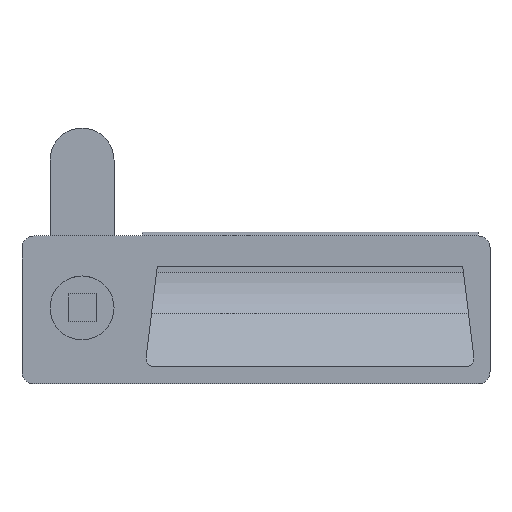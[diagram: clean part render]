
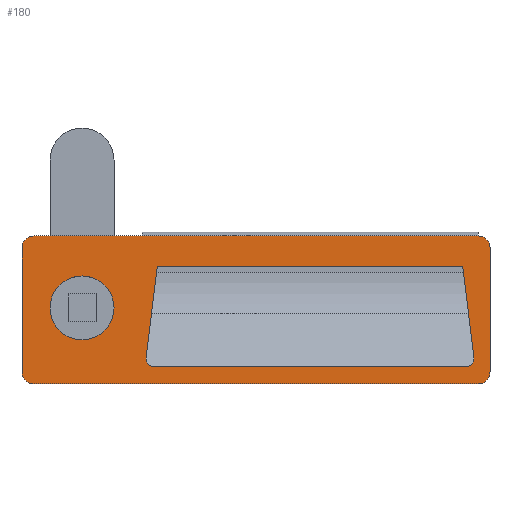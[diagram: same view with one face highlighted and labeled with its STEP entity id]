
A CAD part, top view. The second image highlights one B-rep face of the part: STEP entity #180.
In plain terms, the highlighted planar face has unit normal (0, 0, 1).
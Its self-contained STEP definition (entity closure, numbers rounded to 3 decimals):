
#180 = ADVANCED_FACE( '', ( #287, #288, #289 ), #290, .T. );
#287 = FACE_BOUND( '', #482, .T. );
#288 = FACE_OUTER_BOUND( '', #483, .T. );
#289 = FACE_BOUND( '', #484, .T. );
#290 = PLANE( '', #485 );
#482 = EDGE_LOOP( '', ( #744 ) );
#483 = EDGE_LOOP( '', ( #745, #746, #747, #748, #749, #750, #751, #752 ) );
#484 = EDGE_LOOP( '', ( #753, #754, #755, #756, #757, #758 ) );
#485 = AXIS2_PLACEMENT_3D( '', #759, #760, #761 );
#744 = ORIENTED_EDGE( '', *, *, #1409, .F. );
#745 = ORIENTED_EDGE( '', *, *, #1418, .T. );
#746 = ORIENTED_EDGE( '', *, *, #1419, .T. );
#747 = ORIENTED_EDGE( '', *, *, #1420, .T. );
#748 = ORIENTED_EDGE( '', *, *, #1421, .T. );
#749 = ORIENTED_EDGE( '', *, *, #1422, .T. );
#750 = ORIENTED_EDGE( '', *, *, #1423, .T. );
#751 = ORIENTED_EDGE( '', *, *, #1424, .T. );
#752 = ORIENTED_EDGE( '', *, *, #1425, .T. );
#753 = ORIENTED_EDGE( '', *, *, #1426, .F. );
#754 = ORIENTED_EDGE( '', *, *, #1427, .F. );
#755 = ORIENTED_EDGE( '', *, *, #1428, .F. );
#756 = ORIENTED_EDGE( '', *, *, #1429, .F. );
#757 = ORIENTED_EDGE( '', *, *, #1430, .F. );
#758 = ORIENTED_EDGE( '', *, *, #1431, .F. );
#759 = CARTESIAN_POINT( '', ( -12., -16., 2. ) );
#760 = DIRECTION( '', ( 0., 0., 1. ) );
#761 = DIRECTION( '', ( 1., 0., 0. ) );
#1409 = EDGE_CURVE( '', #1665, #1665, #1666, .T. );
#1418 = EDGE_CURVE( '', #1679, #1680, #1681, .T. );
#1419 = EDGE_CURVE( '', #1680, #1682, #1683, .T. );
#1420 = EDGE_CURVE( '', #1682, #1684, #1685, .T. );
#1421 = EDGE_CURVE( '', #1684, #1686, #1687, .T. );
#1422 = EDGE_CURVE( '', #1686, #1688, #1689, .T. );
#1423 = EDGE_CURVE( '', #1688, #1690, #1691, .T. );
#1424 = EDGE_CURVE( '', #1690, #1692, #1693, .T. );
#1425 = EDGE_CURVE( '', #1692, #1679, #1694, .T. );
#1426 = EDGE_CURVE( '', #1695, #1696, #1697, .T. );
#1427 = EDGE_CURVE( '', #1698, #1695, #1699, .T. );
#1428 = EDGE_CURVE( '', #1700, #1698, #1701, .T. );
#1429 = EDGE_CURVE( '', #1702, #1700, #1703, .T. );
#1430 = EDGE_CURVE( '', #1704, #1702, #1705, .T. );
#1431 = EDGE_CURVE( '', #1696, #1704, #1706, .T. );
#1665 = VERTEX_POINT( '', #2059 );
#1666 = CIRCLE( '', #2060, 8. );
#1679 = VERTEX_POINT( '', #2081 );
#1680 = VERTEX_POINT( '', #2082 );
#1681 = LINE( '', #2083, #2084 );
#1682 = VERTEX_POINT( '', #2085 );
#1683 = CIRCLE( '', #2086, 3. );
#1684 = VERTEX_POINT( '', #2087 );
#1685 = LINE( '', #2088, #2089 );
#1686 = VERTEX_POINT( '', #2090 );
#1687 = CIRCLE( '', #2091, 3. );
#1688 = VERTEX_POINT( '', #2092 );
#1689 = LINE( '', #2093, #2094 );
#1690 = VERTEX_POINT( '', #2095 );
#1691 = CIRCLE( '', #2096, 3. );
#1692 = VERTEX_POINT( '', #2097 );
#1693 = LINE( '', #2098, #2099 );
#1694 = CIRCLE( '', #2100, 3. );
#1695 = VERTEX_POINT( '', #2101 );
#1696 = VERTEX_POINT( '', #2102 );
#1697 = CIRCLE( '', #2103, 2. );
#1698 = VERTEX_POINT( '', #2104 );
#1699 = LINE( '', #2105, #2106 );
#1700 = VERTEX_POINT( '', #2107 );
#1701 = LINE( '', #2108, #2109 );
#1702 = VERTEX_POINT( '', #2110 );
#1703 = LINE( '', #2111, #2112 );
#1704 = VERTEX_POINT( '', #2113 );
#1705 = CIRCLE( '', #2114, 2. );
#1706 = LINE( '', #2115, #2116 );
#2059 = CARTESIAN_POINT( '', ( 8., 0., 2. ) );
#2060 = AXIS2_PLACEMENT_3D( '', #2574, #2575, #2576 );
#2081 = CARTESIAN_POINT( '', ( -15., 15., 2. ) );
#2082 = CARTESIAN_POINT( '', ( -15., -16., 2. ) );
#2083 = CARTESIAN_POINT( '', ( -15., 15., 2. ) );
#2084 = VECTOR( '', #2585, 1000. );
#2085 = CARTESIAN_POINT( '', ( -12., -19., 2. ) );
#2086 = AXIS2_PLACEMENT_3D( '', #2586, #2587, #2588 );
#2087 = CARTESIAN_POINT( '', ( 99., -19., 2. ) );
#2088 = CARTESIAN_POINT( '', ( -12., -19., 2. ) );
#2089 = VECTOR( '', #2589, 1000. );
#2090 = CARTESIAN_POINT( '', ( 102., -16., 2. ) );
#2091 = AXIS2_PLACEMENT_3D( '', #2590, #2591, #2592 );
#2092 = CARTESIAN_POINT( '', ( 102., 15., 2. ) );
#2093 = CARTESIAN_POINT( '', ( 102., -16., 2. ) );
#2094 = VECTOR( '', #2593, 1000. );
#2095 = CARTESIAN_POINT( '', ( 99., 18., 2. ) );
#2096 = AXIS2_PLACEMENT_3D( '', #2594, #2595, #2596 );
#2097 = CARTESIAN_POINT( '', ( -12., 18., 2. ) );
#2098 = CARTESIAN_POINT( '', ( 99., 18., 2. ) );
#2099 = VECTOR( '', #2597, 1000. );
#2100 = AXIS2_PLACEMENT_3D( '', #2598, #2599, #2600 );
#2101 = CARTESIAN_POINT( '', ( 16.025, -12.496, 2. ) );
#2102 = CARTESIAN_POINT( '', ( 18.011, -14.74, 2. ) );
#2103 = AXIS2_PLACEMENT_3D( '', #2601, #2602, #2603 );
#2104 = CARTESIAN_POINT( '', ( 18.82, 10.26, 2. ) );
#2105 = CARTESIAN_POINT( '', ( 18.82, 10.26, 2. ) );
#2106 = VECTOR( '', #2604, 1000. );
#2107 = CARTESIAN_POINT( '', ( 95.18, 10.26, 2. ) );
#2108 = CARTESIAN_POINT( '', ( 95.18, 10.26, 2. ) );
#2109 = VECTOR( '', #2605, 1000. );
#2110 = CARTESIAN_POINT( '', ( 97.975, -12.496, 2. ) );
#2111 = CARTESIAN_POINT( '', ( 97.975, -12.496, 2. ) );
#2112 = VECTOR( '', #2606, 1000. );
#2113 = CARTESIAN_POINT( '', ( 95.989, -14.74, 2. ) );
#2114 = AXIS2_PLACEMENT_3D( '', #2607, #2608, #2609 );
#2115 = CARTESIAN_POINT( '', ( 18.011, -14.74, 2. ) );
#2116 = VECTOR( '', #2610, 1000. );
#2574 = CARTESIAN_POINT( '', ( 0., 0., 2. ) );
#2575 = DIRECTION( '', ( 0., 0., 1. ) );
#2576 = DIRECTION( '', ( 1., 0., 0. ) );
#2585 = DIRECTION( '', ( 0., -1., 0. ) );
#2586 = CARTESIAN_POINT( '', ( -12., -16., 2. ) );
#2587 = DIRECTION( '', ( 0., 0., 1. ) );
#2588 = DIRECTION( '', ( 1., 0., 0. ) );
#2589 = DIRECTION( '', ( 1., 0., 0. ) );
#2590 = CARTESIAN_POINT( '', ( 99., -16., 2. ) );
#2591 = DIRECTION( '', ( 0., 0., 1. ) );
#2592 = DIRECTION( '', ( 1., 0., 0. ) );
#2593 = DIRECTION( '', ( 0., 1., 0. ) );
#2594 = CARTESIAN_POINT( '', ( 99., 15., 2. ) );
#2595 = DIRECTION( '', ( 0., 0., 1. ) );
#2596 = DIRECTION( '', ( 1., 0., 0. ) );
#2597 = DIRECTION( '', ( -1., 0., 0. ) );
#2598 = CARTESIAN_POINT( '', ( -12., 15., 2. ) );
#2599 = DIRECTION( '', ( 0., 0., 1. ) );
#2600 = DIRECTION( '', ( 1., 0., 0. ) );
#2601 = CARTESIAN_POINT( '', ( 18.011, -12.74, 2. ) );
#2602 = DIRECTION( '', ( 0., 0., 1. ) );
#2603 = DIRECTION( '', ( 1., 0., 0. ) );
#2604 = DIRECTION( '', ( -0.122, -0.993, 0. ) );
#2605 = DIRECTION( '', ( -1., 0., 0. ) );
#2606 = DIRECTION( '', ( -0.122, 0.993, 0. ) );
#2607 = CARTESIAN_POINT( '', ( 95.989, -12.74, 2. ) );
#2608 = DIRECTION( '', ( 0., 0., 1. ) );
#2609 = DIRECTION( '', ( 1., 0., 0. ) );
#2610 = DIRECTION( '', ( 1., 0., 0. ) );
